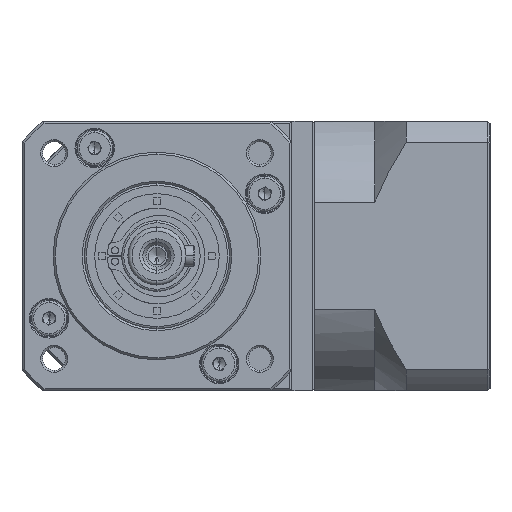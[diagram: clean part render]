
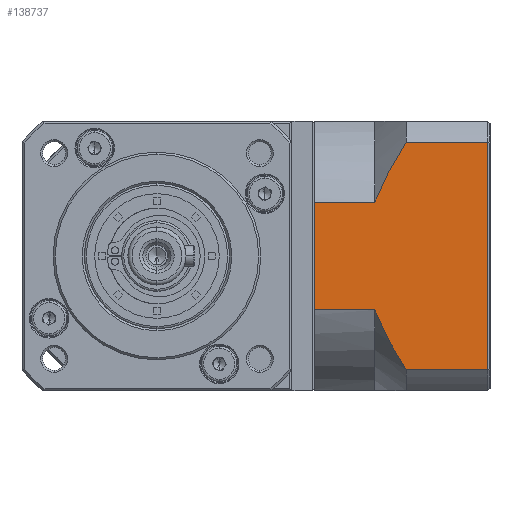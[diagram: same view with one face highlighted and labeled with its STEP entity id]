
A CAD part, left-side view. The second image highlights one B-rep face of the part: STEP entity #138737.
In plain terms, the highlighted planar face has unit normal (-1, 0, 0).
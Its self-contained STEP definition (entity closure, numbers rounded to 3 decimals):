
#814 = VERTEX_POINT ( 'NONE', #5637 ) ;
#1056 = LINE ( 'NONE', #62367, #31148 ) ;
#4993 = ORIENTED_EDGE ( 'NONE', *, *, #150606, .T. ) ;
#5637 = CARTESIAN_POINT ( 'NONE',  ( -9.591, -98.283, -156.586 ) ) ;
#5700 = CARTESIAN_POINT ( 'NONE',  ( -9.591, -73.829, -148.423 ) ) ;
#9455 = CARTESIAN_POINT ( 'NONE',  ( -9.591, -78.583, -101.814 ) ) ;
#9589 = LINE ( 'NONE', #78277, #15589 ) ;
#13416 = ORIENTED_EDGE ( 'NONE', *, *, #143777, .F. ) ;
#14533 = EDGE_LOOP ( 'NONE', ( #121228, #28482, #13416, #78232, #154100, #94611, #77369, #4993 ) ) ;
#15589 = VECTOR ( 'NONE', #142297, 1000. ) ;
#17109 = EDGE_CURVE ( 'NONE', #814, #162541, #9589, .T. ) ;
#18498 = VECTOR ( 'NONE', #94911, 1000. ) ;
#18630 = CARTESIAN_POINT ( 'NONE',  ( -9.591, -77.121, -154.318 ) ) ;
#22344 = CARTESIAN_POINT ( 'NONE',  ( -9.591, -75.08, -107.624 ) ) ;
#23101 = VECTOR ( 'NONE', #125307, 1000. ) ;
#28482 = ORIENTED_EDGE ( 'NONE', *, *, #17109, .T. ) ;
#29071 = VERTEX_POINT ( 'NONE', #67624 ) ;
#29628 = EDGE_CURVE ( 'NONE', #29071, #80424, #52814, .T. ) ;
#31148 = VECTOR ( 'NONE', #75272, 1000. ) ;
#35211 = CARTESIAN_POINT ( 'NONE',  ( -9.591, -72.025, -113.672 ) ) ;
#35857 = CARTESIAN_POINT ( 'NONE',  ( -9.591, -71.083, -101.814 ) ) ;
#41424 = CARTESIAN_POINT ( 'NONE',  ( -9.591, -78.583, -156.586 ) ) ;
#46804 = DIRECTION ( 'NONE',  ( 1., 0., 0. ) ) ;
#49614 = VECTOR ( 'NONE', #152720, 1000. ) ;
#52814 = LINE ( 'NONE', #133060, #18498 ) ;
#53793 = LINE ( 'NONE', #106233, #83836 ) ;
#55607 = FACE_OUTER_BOUND ( 'NONE', #14533, .T. ) ;
#56185 = CARTESIAN_POINT ( 'NONE',  ( -9.591, -78.583, -101.814 ) ) ;
#56893 = CARTESIAN_POINT ( 'NONE',  ( -9.591, -71.083, -116.21 ) ) ;
#57303 = LINE ( 'NONE', #35857, #23101 ) ;
#62367 = CARTESIAN_POINT ( 'NONE',  ( -9.591, -71.083, -156.586 ) ) ;
#67624 = CARTESIAN_POINT ( 'NONE',  ( -9.591, -71.083, -142.19 ) ) ;
#67951 = EDGE_CURVE ( 'NONE', #154757, #150608, #75465, .T. ) ;
#69061 = DIRECTION ( 'NONE',  ( 0., 0., -1. ) ) ;
#69755 = CARTESIAN_POINT ( 'NONE',  ( -9.591, -72.099, -144.733 ) ) ;
#72076 = PLANE ( 'NONE',  #139712 ) ;
#73484 = CARTESIAN_POINT ( 'NONE',  ( -9.591, -77.85, -102.952 ) ) ;
#73616 = CARTESIAN_POINT ( 'NONE',  ( -9.591, -56.583, -116.21 ) ) ;
#75272 = DIRECTION ( 'NONE',  ( 0., 1., 0. ) ) ;
#75465 = B_SPLINE_CURVE_WITH_KNOTS ( 'NONE', 3,
 ( #9455, #73484, #86431, #99357, #22344, #112302, #35211, #125220 ),
 .UNSPECIFIED., .F., .F.,
 ( 4, 2, 2, 4 ),
 ( 0.058, 0.062, 0.066, 0.074 ),
 .UNSPECIFIED. ) ;
#77369 = ORIENTED_EDGE ( 'NONE', *, *, #29628, .F. ) ;
#78232 = ORIENTED_EDGE ( 'NONE', *, *, #67951, .T. ) ;
#78277 = CARTESIAN_POINT ( 'NONE',  ( -9.591, -98.283, -161.7 ) ) ;
#80424 = VERTEX_POINT ( 'NONE', #148481 ) ;
#82130 = CARTESIAN_POINT ( 'NONE',  ( -9.591, -71.083, -142.19 ) ) ;
#82695 = CARTESIAN_POINT ( 'NONE',  ( -9.591, -73.224, -147.211 ) ) ;
#83754 = LINE ( 'NONE', #126958, #49614 ) ;
#83836 = VECTOR ( 'NONE', #69061, 1000. ) ;
#86431 = CARTESIAN_POINT ( 'NONE',  ( -9.591, -77.134, -104.103 ) ) ;
#94611 = ORIENTED_EDGE ( 'NONE', *, *, #160351, .T. ) ;
#94911 = DIRECTION ( 'NONE',  ( 0., 1., 0. ) ) ;
#95670 = CARTESIAN_POINT ( 'NONE',  ( -9.591, -75.734, -152.004 ) ) ;
#99357 = CARTESIAN_POINT ( 'NONE',  ( -9.591, -75.75, -106.438 ) ) ;
#101565 = EDGE_CURVE ( 'NONE', #814, #130773, #1056, .T. ) ;
#106233 = CARTESIAN_POINT ( 'NONE',  ( -9.591, -56.583, -161.7 ) ) ;
#108000 = CARTESIAN_POINT ( 'NONE',  ( -9.591, -71.321, -142.833 ) ) ;
#108538 = CARTESIAN_POINT ( 'NONE',  ( -9.591, -78.583, -156.586 ) ) ;
#112068 = VERTEX_POINT ( 'NONE', #73616 ) ;
#112302 = CARTESIAN_POINT ( 'NONE',  ( -9.591, -73.17, -111.22 ) ) ;
#121228 = ORIENTED_EDGE ( 'NONE', *, *, #101565, .F. ) ;
#123792 = CARTESIAN_POINT ( 'NONE',  ( -9.591, -98.783, -161.7 ) ) ;
#125220 = CARTESIAN_POINT ( 'NONE',  ( -9.591, -71.083, -116.21 ) ) ;
#125307 = DIRECTION ( 'NONE',  ( 0., -1., 0. ) ) ;
#126958 = CARTESIAN_POINT ( 'NONE',  ( -9.591, -71.083, -116.21 ) ) ;
#130773 = VERTEX_POINT ( 'NONE', #41424 ) ;
#133060 = CARTESIAN_POINT ( 'NONE',  ( -9.591, -71.083, -142.19 ) ) ;
#136659 = DIRECTION ( 'NONE',  ( 0., 1., 0. ) ) ;
#138737 = ADVANCED_FACE ( 'NONE', ( #55607 ), #72076, .F. ) ;
#139712 = AXIS2_PLACEMENT_3D ( 'NONE', #123792, #46804, #136659 ) ;
#142297 = DIRECTION ( 'NONE',  ( 0., 0., 1. ) ) ;
#143777 = EDGE_CURVE ( 'NONE', #154757, #162541, #57303, .T. ) ;
#146729 = CARTESIAN_POINT ( 'NONE',  ( -9.591, -71.574, -143.471 ) ) ;
#147758 = EDGE_CURVE ( 'NONE', #112068, #150608, #83754, .T. ) ;
#148481 = CARTESIAN_POINT ( 'NONE',  ( -9.591, -56.583, -142.19 ) ) ;
#150606 = EDGE_CURVE ( 'NONE', #29071, #130773, #158410, .T. ) ;
#150608 = VERTEX_POINT ( 'NONE', #56893 ) ;
#152720 = DIRECTION ( 'NONE',  ( 0., -1., 0. ) ) ;
#153674 = CARTESIAN_POINT ( 'NONE',  ( -9.591, -98.283, -101.814 ) ) ;
#154100 = ORIENTED_EDGE ( 'NONE', *, *, #147758, .F. ) ;
#154757 = VERTEX_POINT ( 'NONE', #56185 ) ;
#158410 = B_SPLINE_CURVE_WITH_KNOTS ( 'NONE', 3,
 ( #82130, #108000, #146729, #69755, #159672, #82695, #5700, #95670, #18630, #108538 ),
 .UNSPECIFIED., .F., .F.,
 ( 4, 2, 2, 2, 4 ),
 ( 0.101, 0.103, 0.105, 0.109, 0.117 ),
 .UNSPECIFIED. ) ;
#159672 = CARTESIAN_POINT ( 'NONE',  ( -9.591, -72.373, -145.357 ) ) ;
#160351 = EDGE_CURVE ( 'NONE', #112068, #80424, #53793, .T. ) ;
#162541 = VERTEX_POINT ( 'NONE', #153674 ) ;
